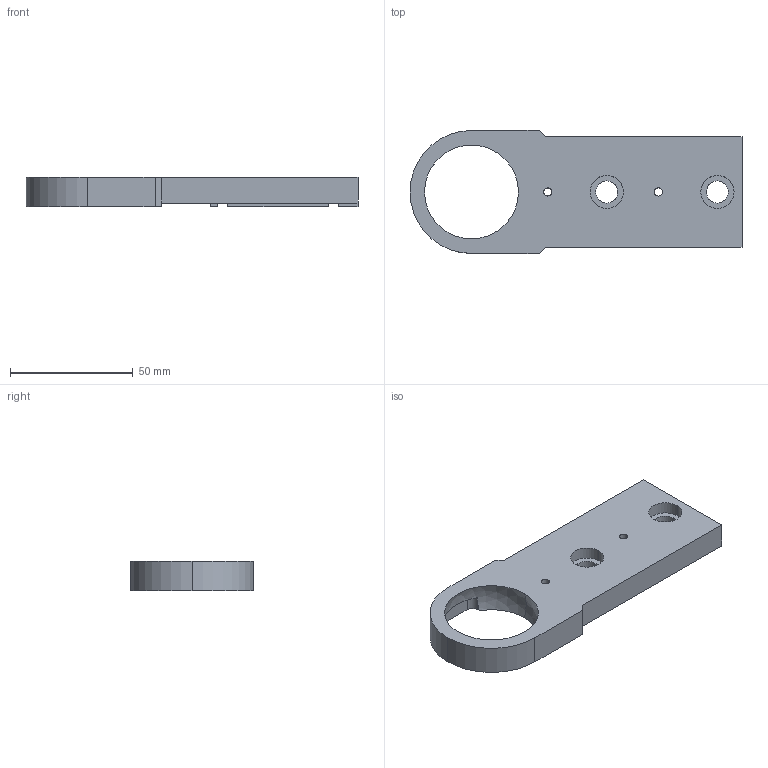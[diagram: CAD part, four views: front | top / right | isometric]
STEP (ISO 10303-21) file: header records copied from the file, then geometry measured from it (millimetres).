
FILE_DESCRIPTION (( 'STEP AP203' ), '1' );
FILE_NAME ('084.807.004.STEP', '2013-01-29T12:45:14', ( 'Alusic' ), ( 'Alusic' ), 'SwSTEP 2.0', 'SolidWorks 2011', '' );
FILE_SCHEMA (( 'CONFIG_CONTROL_DESIGN' ));
Length unit declared in the file: millimetre
Products named in the file (1): 084.807.004
Bounding box: 135 x 50 x 12 mm (x, y, z)
Volume: 50773 mm3; surface area: 16194.8 mm2
Topology: 1 solids, 1 shells, 52 faces, 155 edges, 102 vertices
Faces by surface type: plane 32, cylinder 18, sphere 2
Entity records: 1840 total; most frequent: CARTESIAN_POINT 316, DIRECTION 313, ORIENTED_EDGE 302, EDGE_CURVE 151, AXIS2_PLACEMENT_3D 113, VERTEX_POINT 100, VECTOR 87, LINE 87
